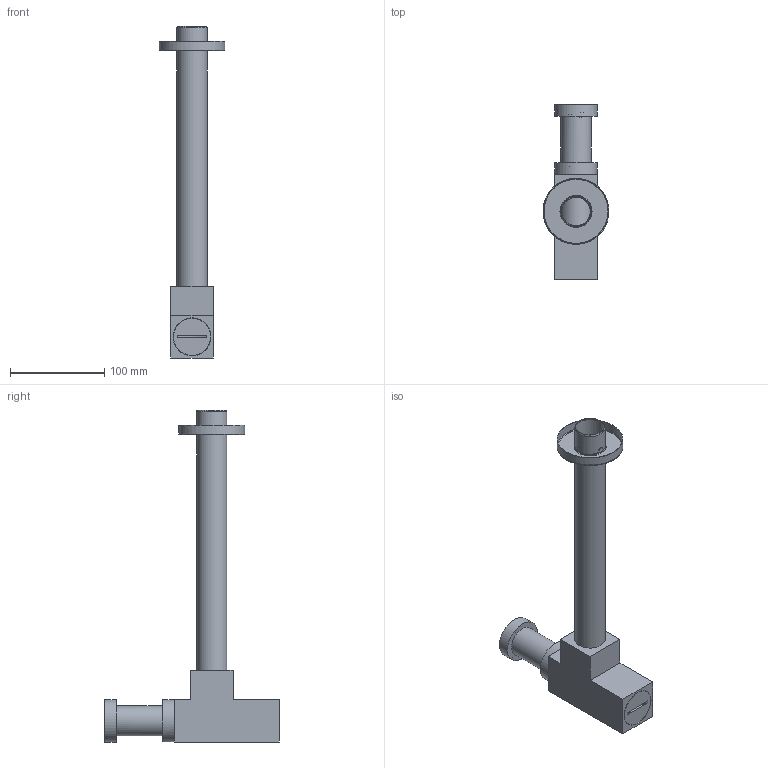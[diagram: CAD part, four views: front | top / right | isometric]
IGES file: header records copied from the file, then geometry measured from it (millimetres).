
Global section: file name: f201909a-b286-4dd7-af27-1a634d91ba31; native system: unknown; preprocessor: unknown; author: unknown; organization: unknown; date: 20191212.112559; units: millimetre
Bounding box: 70 x 185.12 x 352.52 mm (x, y, z)
Volume: 148929.2 mm3; surface area: 181140.4 mm2
Topology: 12 solids, 12 shells, 154 faces, 440 edges, 326 vertices
Faces by surface type: bspline 154
